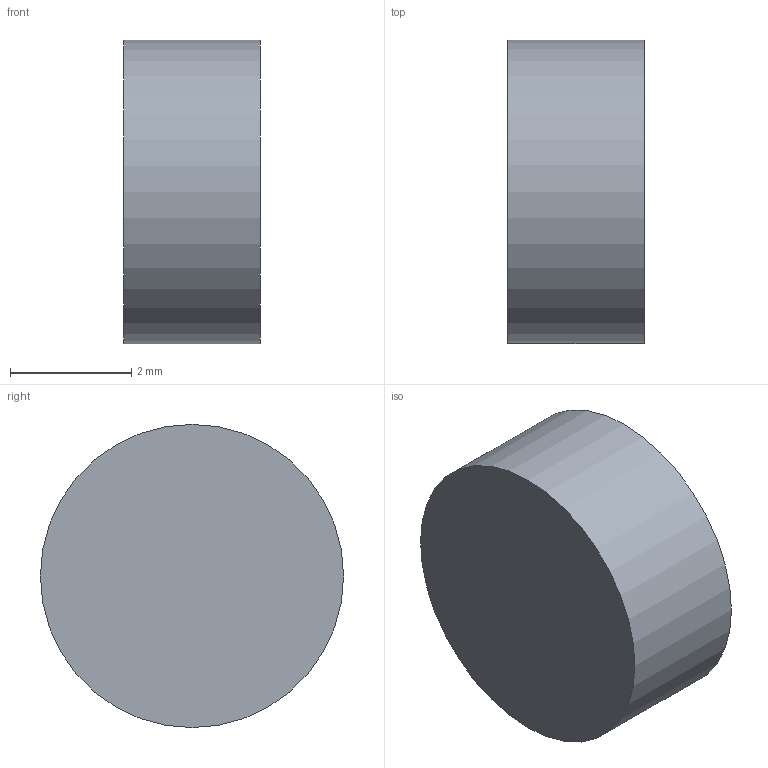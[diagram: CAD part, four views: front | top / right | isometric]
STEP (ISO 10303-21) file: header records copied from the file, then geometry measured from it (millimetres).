
FILE_DESCRIPTION(('Open CASCADE Model'),'2;1');
FILE_NAME('ptt_pad_silicone_1','2026-09-06T11:34:09',('Author'),( 'Open CASCADE'),'Open CASCADE STEP processor 7.8','build123d', 'Unknown');
FILE_SCHEMA(('AUTOMOTIVE_DESIGN { 1 0 10303 214 1 1 1 1 }'));
Length unit declared in the file: millimetre
Products named in the file (1): ptt_pad_silicone_1
Bounding box: 2.25 x 5 x 5 mm (x, y, z)
Volume: 44.2 mm3; surface area: 74.6 mm2
Topology: 1 solids, 1 shells, 3 faces, 3 edges, 2 vertices
Faces by surface type: plane 2, cylinder 1
Full cylindrical faces by diameter (mm): 5 x1
Entity records: 108 total; most frequent: DIRECTION 19, CARTESIAN_POINT 15, AXIS2_PLACEMENT_3D 6, ORIENTED_EDGE 6, PCURVE 6, DEFINITIONAL_REPRESENTATION 6, LINE 5, VECTOR 5
